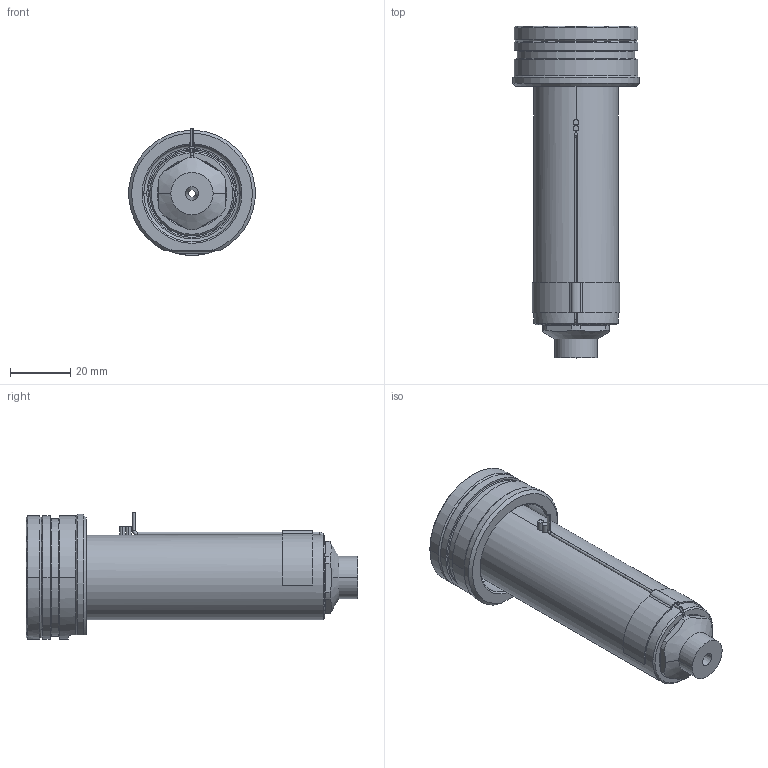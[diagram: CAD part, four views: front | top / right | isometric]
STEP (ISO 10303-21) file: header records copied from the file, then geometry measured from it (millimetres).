
FILE_DESCRIPTION((''),'2;1');
FILE_NAME('EO10_SG_SG_090_SW','2024-02-19T12:23:46',('sundharh'),(''),'CREO PARAMETRIC BY PTC INC, 2023154','CREO PARAMETRIC BY PTC INC, 2023154','');
FILE_SCHEMA(('CONFIG_CONTROL_DESIGN'));
Length unit declared in the file: millimetre
Products named in the file (1): EO10_SG_SG_090_SW
Bounding box: 41.85 x 110 x 42.02 mm (x, y, z)
Volume: 67163.5 mm3; surface area: 19081.9 mm2
Topology: 1 solids, 1 shells, 160 faces, 409 edges, 252 vertices
Faces by surface type: cylinder 63, plane 45, cone 29, torus 17, bspline 3, sphere 3
Entity records: 5512 total; most frequent: CARTESIAN_POINT 1563, DIRECTION 857, ORIENTED_EDGE 810, EDGE_CURVE 405, AXIS2_PLACEMENT_3D 353, VERTEX_POINT 252, CIRCLE 196, EDGE_LOOP 175
